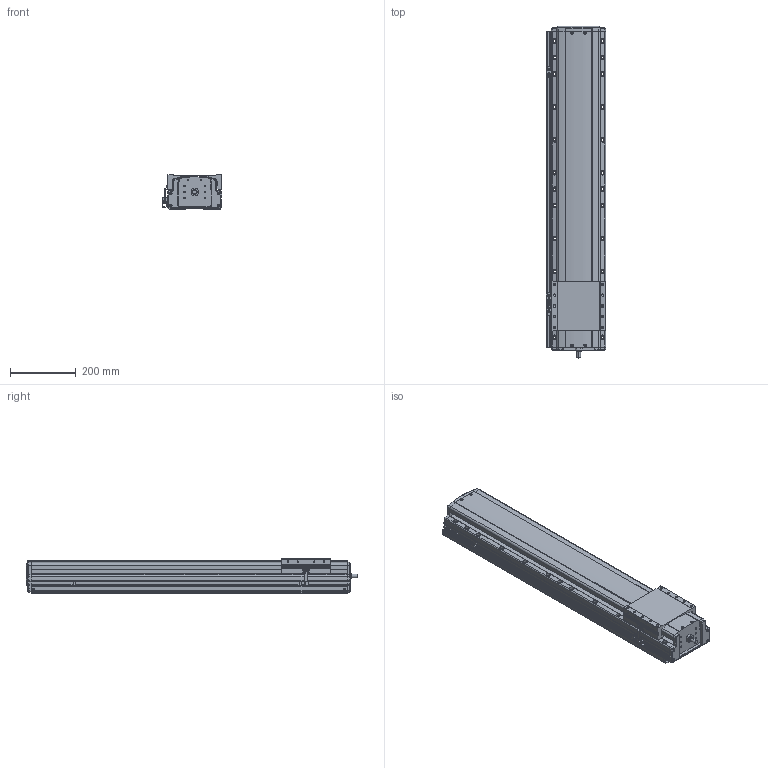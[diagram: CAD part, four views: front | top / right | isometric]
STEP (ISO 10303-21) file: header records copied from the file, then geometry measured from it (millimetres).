
FILE_DESCRIPTION(('STEP AP214'),'1');
FILE_NAME('Z:/Web/3D/PSA165/STP/PSA165-700 (3D)/PSA165ㅁㅁ-700+3SL.stp','2014-06-23T11:31:22',(' '),(' '),'Spatial InterOp 3D',' ',' ');
FILE_SCHEMA(('automotive_design'));
Length unit declared in the file: millimetre
Products named in the file (36): 스크루 : Round - M4.0 x 12.0; RRCV-PA160; BASE; 스크루 : Round - M4.0 x 10.0; RN15; Screw 20; SLIDE; FRCV; M3.0 x 6.0; SRL-16x17-360L; SGD-SAN150; EE-SX674; SBK-SX674-352; 스크루 : Round - M3.0 x 6.0; BHCS M4.0 x 10.0
Bounding box: 181 x 1008.8 x 104 mm (x, y, z)
Volume: 13610964.9 mm3; surface area: 972386.5 mm2
Topology: 36 solids, 36 shells, 2436 faces, 6557 edges, 4217 vertices
Faces by surface type: plane 1407, cylinder 735, cone 201, sphere 52, bspline 25, torus 16
Entity records: 99162 total; most frequent: CARTESIAN_POINT 17300, DIRECTION 12977, ORIENTED_EDGE 12846, EDGE_CURVE 6423, LINE 4361, VECTOR 4361, AXIS2_PLACEMENT_3D 4308, VERTEX_POINT 4217
